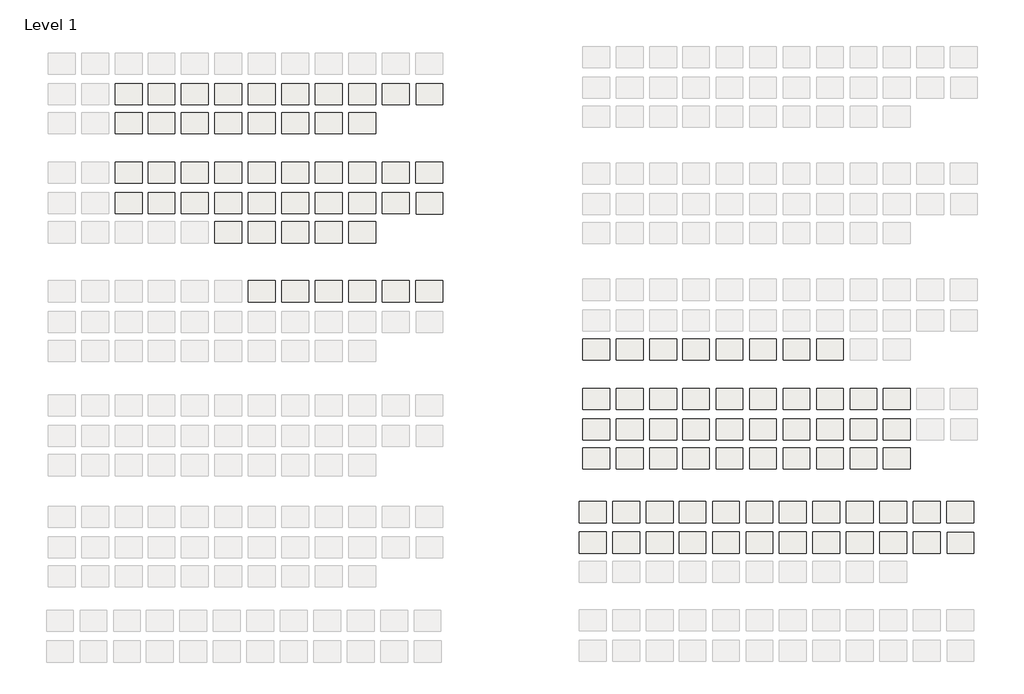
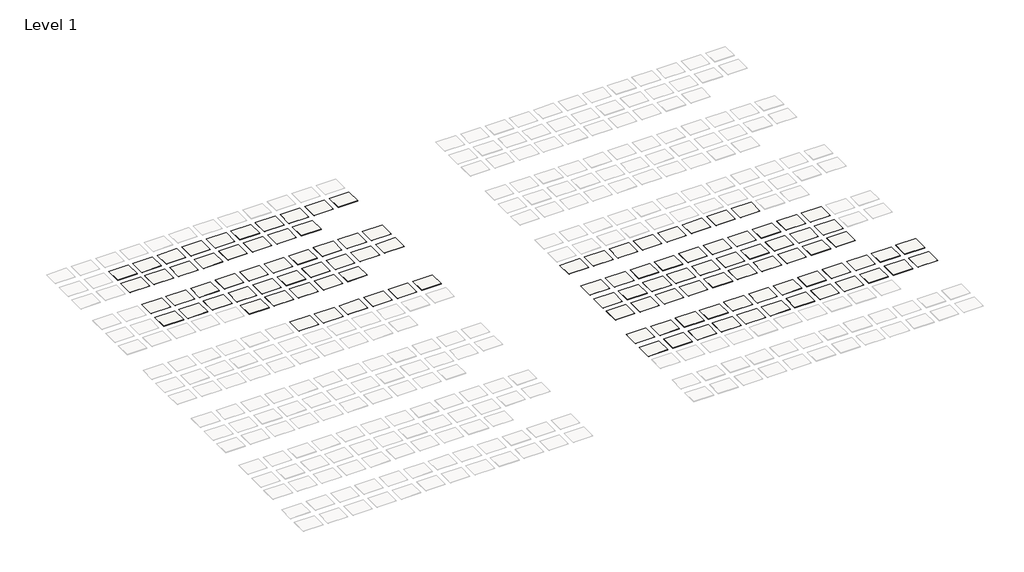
# One storey, part 3 of 4: 111 coverings.
"""IFC4 building model written with IfcOpenShell, lengths in millimetres."""

from ifc_helpers import new_model, si_unit, frame, origin, place, context, project, spatial, polyline, outline, extrude, element, save

model = new_model("IFC4")

# Units and contexts
model_context = context("Model", 3, world=origin())
ifc_project = project(units=[si_unit("LENGTHUNIT", "METRE", prefix="MILLI")], contexts=[model_context])

# Site, building, storey
site = spatial("IfcSite", under=ifc_project)
building = spatial("IfcBuilding", under=site)
storey = spatial("IfcBuildingStorey", under=building, Name="Level 1", Elevation=0.0)

# Coverings
placement = place(None, origin())
element("IfcCovering", 1, ObjectType="Rockfon Color-all E24 600 x 600 mm Anthracite", at=placement, inside=storey, context=model_context, shape_type="SweptSolid", body=[
    extrude(outline(polyline([(68419.6096566, -41151.2630286), (68419.6096566, -44051.2630286), (64729.6096566, -44051.2630286), (64729.6096566, -41151.2630286), (68419.6096566, -41151.2630286)])), frame((0.0, 0.0, 1.0), z_axis=(0.0, 0.0, 1.0), x_axis=(1.0, 0.0, 0.0)), (0.0, 0.0, 1.0), 20.0),
])
element("IfcCovering", 2, ObjectType="Rockfon Color-all E24 600 x 600 mm Seaweed", at=placement, inside=storey, context=model_context, shape_type="SweptSolid", body=[
    extrude(outline(polyline([(68419.6096566, -45351.2630286), (68419.6096566, -48251.2630286), (64729.6096566, -48251.2630286), (64729.6096566, -45351.2630286), (68419.6096566, -45351.2630286)])), frame((0.0, 0.0, 1.0), z_axis=(0.0, 0.0, 1.0), x_axis=(1.0, 0.0, 0.0)), (0.0, 0.0, 1.0), 20.0),
])
element("IfcCovering", 3, ObjectType="Rockfon Color-all E24 600 x 600 mm Azure", at=placement, inside=storey, context=model_context, shape_type="SweptSolid", body=[
    extrude(outline(polyline([(68419.6096566, -49351.2630286), (68419.6096566, -52251.2630286), (64729.6096566, -52251.2630286), (64729.6096566, -49351.2630286), (68419.6096566, -49351.2630286)])), frame((0.0, 0.0, 1.0), z_axis=(0.0, 0.0, 1.0), x_axis=(1.0, 0.0, 0.0)), (0.0, 0.0, 1.0), 20.0),
])
element("IfcCovering", 4, ObjectType="Rockfon Color-all E24 600 x 600 mm Mustard", at=placement, inside=storey, context=model_context, shape_type="SweptSolid", body=[
    extrude(outline(polyline([(73019.6096566, -41151.2630286), (73019.6096566, -44051.2630286), (69329.6096566, -44051.2630286), (69329.6096566, -41151.2630286), (73019.6096566, -41151.2630286)])), frame((0.0, 0.0, 1.0), z_axis=(0.0, 0.0, 1.0), x_axis=(1.0, 0.0, 0.0)), (0.0, 0.0, 1.0), 20.0),
])
element("IfcCovering", 5, ObjectType="Rockfon Color-all E24 600 x 600 mm Eucalyptus", at=placement, inside=storey, context=model_context, shape_type="SweptSolid", body=[
    extrude(outline(polyline([(73019.6096566, -45351.2630286), (73019.6096566, -48251.2630286), (69329.6096566, -48251.2630286), (69329.6096566, -45351.2630286), (73019.6096566, -45351.2630286)])), frame((0.0, 0.0, 1.0), z_axis=(0.0, 0.0, 1.0), x_axis=(1.0, 0.0, 0.0)), (0.0, 0.0, 1.0), 20.0),
])
element("IfcCovering", 6, ObjectType="Rockfon Color-all E24 600 x 600 mm Plaster", at=placement, inside=storey, context=model_context, shape_type="SweptSolid", body=[
    extrude(outline(polyline([(73019.6096566, -49351.2630286), (73019.6096566, -52251.2630286), (69329.6096566, -52251.2630286), (69329.6096566, -49351.2630286), (73019.6096566, -49351.2630286)])), frame((0.0, 0.0, 1.0), z_axis=(0.0, 0.0, 1.0), x_axis=(1.0, 0.0, 0.0)), (0.0, 0.0, 1.0), 20.0),
])
element("IfcCovering", 7, ObjectType="Rockfon Color-all E24 600 x 600 mm Sand", at=placement, inside=storey, context=model_context, shape_type="SweptSolid", body=[
    extrude(outline(polyline([(77619.6096566, -41151.2630286), (77619.6096566, -44051.2630286), (73929.6096566, -44051.2630286), (73929.6096566, -41151.2630286), (77619.6096566, -41151.2630286)])), frame((0.0, 0.0, 1.0), z_axis=(0.0, 0.0, 1.0), x_axis=(1.0, 0.0, 0.0)), (0.0, 0.0, 1.0), 20.0),
])
element("IfcCovering", 8, ObjectType="Rockfon Color-all E24 600 x 600 mm Fresh", at=placement, inside=storey, context=model_context, shape_type="SweptSolid", body=[
    extrude(outline(polyline([(77619.6096566, -45351.2630286), (77619.6096566, -48251.2630286), (73929.6096566, -48251.2630286), (73929.6096566, -45351.2630286), (77619.6096566, -45351.2630286)])), frame((0.0, 0.0, 1.0), z_axis=(0.0, 0.0, 1.0), x_axis=(1.0, 0.0, 0.0)), (0.0, 0.0, 1.0), 20.0),
])
element("IfcCovering", 9, ObjectType="Rockfon Color-all E24 600 x 600 mm Scarlet", at=placement, inside=storey, context=model_context, shape_type="SweptSolid", body=[
    extrude(outline(polyline([(77619.6096566, -49351.2630286), (77619.6096566, -52251.2630286), (73929.6096566, -52251.2630286), (73929.6096566, -49351.2630286), (77619.6096566, -49351.2630286)])), frame((0.0, 0.0, 1.0), z_axis=(0.0, 0.0, 1.0), x_axis=(1.0, 0.0, 0.0)), (0.0, 0.0, 1.0), 20.0),
])
element("IfcCovering", 10, ObjectType="Rockfon Color-all E24 600 x 600 mm Chalk", at=placement, inside=storey, context=model_context, shape_type="SweptSolid", body=[
    extrude(outline(polyline([(82119.6096566, -41151.2630286), (82119.6096566, -44051.2630286), (78429.6096566, -44051.2630286), (78429.6096566, -41151.2630286), (82119.6096566, -41151.2630286)])), frame((0.0, 0.0, 1.0), z_axis=(0.0, 0.0, 1.0), x_axis=(1.0, 0.0, 0.0)), (0.0, 0.0, 1.0), 20.0),
])
element("IfcCovering", 11, ObjectType="Rockfon Color-all E24 600 x 600 mm Sage", at=placement, inside=storey, context=model_context, shape_type="SweptSolid", body=[
    extrude(outline(polyline([(82119.6096566, -45351.2630286), (82119.6096566, -48251.2630286), (78429.6096566, -48251.2630286), (78429.6096566, -45351.2630286), (82119.6096566, -45351.2630286)])), frame((0.0, 0.0, 1.0), z_axis=(0.0, 0.0, 1.0), x_axis=(1.0, 0.0, 0.0)), (0.0, 0.0, 1.0), 20.0),
])
element("IfcCovering", 12, ObjectType="Rockfon Color-all E24 600 x 600 mm Stone", at=placement, inside=storey, context=model_context, shape_type="SweptSolid", body=[
    extrude(outline(polyline([(82119.6096566, -49351.2630286), (82119.6096566, -52251.2630286), (78429.6096566, -52251.2630286), (78429.6096566, -49351.2630286), (82119.6096566, -49351.2630286)])), frame((0.0, 0.0, 1.0), z_axis=(0.0, 0.0, 1.0), x_axis=(1.0, 0.0, 0.0)), (0.0, 0.0, 1.0), 20.0),
])
element("IfcCovering", 13, ObjectType="Rockfon Color-all E24 600 x 600 mm Charcoal", at=placement, inside=storey, context=model_context, shape_type="SweptSolid", body=[
    extrude(outline(polyline([(86719.6096566, -41151.2630286), (86719.6096566, -44051.2630286), (83029.6096566, -44051.2630286), (83029.6096566, -41151.2630286), (86719.6096566, -41151.2630286)])), frame((0.0, 0.0, 1.0), z_axis=(0.0, 0.0, 1.0), x_axis=(1.0, 0.0, 0.0)), (0.0, 0.0, 1.0), 20.0),
])
element("IfcCovering", 14, ObjectType="Rockfon Color-all E24 600 x 600 mm Mint", at=placement, inside=storey, context=model_context, shape_type="SweptSolid", body=[
    extrude(outline(polyline([(86719.6096566, -45351.2630286), (86719.6096566, -48251.2630286), (83029.6096566, -48251.2630286), (83029.6096566, -45351.2630286), (86719.6096566, -45351.2630286)])), frame((0.0, 0.0, 1.0), z_axis=(0.0, 0.0, 1.0), x_axis=(1.0, 0.0, 0.0)), (0.0, 0.0, 1.0), 20.0),
])
element("IfcCovering", 15, ObjectType="Rockfon Color-all E24 600 x 600 mm Stucco", at=placement, inside=storey, context=model_context, shape_type="SweptSolid", body=[
    extrude(outline(polyline([(86719.6096566, -49351.2630286), (86719.6096566, -52251.2630286), (83029.6096566, -52251.2630286), (83029.6096566, -49351.2630286), (86719.6096566, -49351.2630286)])), frame((0.0, 0.0, 1.0), z_axis=(0.0, 0.0, 1.0), x_axis=(1.0, 0.0, 0.0)), (0.0, 0.0, 1.0), 20.0),
])
element("IfcCovering", 16, ObjectType="Rockfon Color-all E24 600 x 600 mm Coral", at=placement, inside=storey, context=model_context, shape_type="SweptSolid", body=[
    extrude(outline(polyline([(91319.6096566, -41151.2630286), (91319.6096566, -44051.2630286), (87629.6096566, -44051.2630286), (87629.6096566, -41151.2630286), (91319.6096566, -41151.2630286)])), frame((0.0, 0.0, 1.0), z_axis=(0.0, 0.0, 1.0), x_axis=(1.0, 0.0, 0.0)), (0.0, 0.0, 1.0), 20.0),
])
element("IfcCovering", 17, ObjectType="Rockfon Color-all E24 600 x 600 mm Gravel", at=placement, inside=storey, context=model_context, shape_type="SweptSolid", body=[
    extrude(outline(polyline([(91319.6096566, -45351.2630286), (91319.6096566, -48251.2630286), (87629.6096566, -48251.2630286), (87629.6096566, -45351.2630286), (91319.6096566, -45351.2630286)])), frame((0.0, 0.0, 1.0), z_axis=(0.0, 0.0, 1.0), x_axis=(1.0, 0.0, 0.0)), (0.0, 0.0, 1.0), 20.0),
])
element("IfcCovering", 18, ObjectType="Rockfon Color-all E24 600 x 600 mm Sandalwood", at=placement, inside=storey, context=model_context, shape_type="SweptSolid", body=[
    extrude(outline(polyline([(91319.6096566, -49351.2630286), (91319.6096566, -52251.2630286), (87629.6096566, -52251.2630286), (87629.6096566, -49351.2630286), (91319.6096566, -49351.2630286)])), frame((0.0, 0.0, 1.0), z_axis=(0.0, 0.0, 1.0), x_axis=(1.0, 0.0, 0.0)), (0.0, 0.0, 1.0), 20.0),
])
element("IfcCovering", 19, ObjectType="Rockfon Color-all E24 600 x 600 mm Clay", at=placement, inside=storey, context=model_context, shape_type="SweptSolid", body=[
    extrude(outline(polyline([(95919.6096566, -41151.2630286), (95919.6096566, -44051.2630286), (92229.6096566, -44051.2630286), (92229.6096566, -41151.2630286), (95919.6096566, -41151.2630286)])), frame((0.0, 0.0, 1.0), z_axis=(0.0, 0.0, 1.0), x_axis=(1.0, 0.0, 0.0)), (0.0, 0.0, 1.0), 20.0),
])
element("IfcCovering", 20, ObjectType="Rockfon Color-all E24 600 x 600 mm Hemp", at=placement, inside=storey, context=model_context, shape_type="SweptSolid", body=[
    extrude(outline(polyline([(95919.6096566, -45351.2630286), (95919.6096566, -48251.2630286), (92229.6096566, -48251.2630286), (92229.6096566, -45351.2630286), (95919.6096566, -45351.2630286)])), frame((0.0, 0.0, 1.0), z_axis=(0.0, 0.0, 1.0), x_axis=(1.0, 0.0, 0.0)), (0.0, 0.0, 1.0), 20.0),
])
element("IfcCovering", 21, ObjectType="Rockfon Color-all E24 600 x 600 mm Ebony", at=placement, inside=storey, context=model_context, shape_type="SweptSolid", body=[
    extrude(outline(polyline([(95919.6096566, -49351.2630286), (95919.6096566, -52251.2630286), (92229.6096566, -52251.2630286), (92229.6096566, -49351.2630286), (95919.6096566, -49351.2630286)])), frame((0.0, 0.0, 1.0), z_axis=(0.0, 0.0, 1.0), x_axis=(1.0, 0.0, 0.0)), (0.0, 0.0, 1.0), 20.0),
])
element("IfcCovering", 22, ObjectType="Rockfon Color-all E24 600 x 600 mm Concrete", at=placement, inside=storey, context=model_context, shape_type="SweptSolid", body=[
    extrude(outline(polyline([(100519.6096566, -41151.2630286), (100519.6096566, -44051.2630286), (96829.6096566, -44051.2630286), (96829.6096566, -41151.2630286), (100519.6096566, -41151.2630286)])), frame((0.0, 0.0, 1.0), z_axis=(0.0, 0.0, 1.0), x_axis=(1.0, 0.0, 0.0)), (0.0, 0.0, 1.0), 20.0),
])
element("IfcCovering", 23, ObjectType="Rockfon Color-all E24 600 x 600 mm Space", at=placement, inside=storey, context=model_context, shape_type="SweptSolid", body=[
    extrude(outline(polyline([(100519.6096566, -45351.2630286), (100519.6096566, -48251.2630286), (96829.6096566, -48251.2630286), (96829.6096566, -45351.2630286), (100519.6096566, -45351.2630286)])), frame((0.0, 0.0, 1.0), z_axis=(0.0, 0.0, 1.0), x_axis=(1.0, 0.0, 0.0)), (0.0, 0.0, 1.0), 20.0),
])
element("IfcCovering", 24, ObjectType="Rockfon Color-all E24 600 x 600 mm Iron", at=placement, inside=storey, context=model_context, shape_type="SweptSolid", body=[
    extrude(outline(polyline([(100519.6096566, -49351.2630286), (100519.6096566, -52251.2630286), (96829.6096566, -52251.2630286), (96829.6096566, -49351.2630286), (100519.6096566, -49351.2630286)])), frame((0.0, 0.0, 1.0), z_axis=(0.0, 0.0, 1.0), x_axis=(1.0, 0.0, 0.0)), (0.0, 0.0, 1.0), 20.0),
])
element("IfcCovering", 25, ObjectType="Rockfon Color-all E24 600 x 600 mm Seashell", at=placement, inside=storey, context=model_context, shape_type="SweptSolid", body=[
    extrude(outline(polyline([(105119.6096566, -41151.2630286), (105119.6096566, -44051.2630286), (101429.6096566, -44051.2630286), (101429.6096566, -41151.2630286), (105119.6096566, -41151.2630286)])), frame((0.0, 0.0, 1.0), z_axis=(0.0, 0.0, 1.0), x_axis=(1.0, 0.0, 0.0)), (0.0, 0.0, 1.0), 20.0),
])
element("IfcCovering", 26, ObjectType="Rockfon Color-all E24 600 x 600 mm Storm", at=placement, inside=storey, context=model_context, shape_type="SweptSolid", body=[
    extrude(outline(polyline([(105119.6096566, -45351.2630286), (105119.6096566, -48251.2630286), (101429.6096566, -48251.2630286), (101429.6096566, -45351.2630286), (105119.6096566, -45351.2630286)])), frame((0.0, 0.0, 1.0), z_axis=(0.0, 0.0, 1.0), x_axis=(1.0, 0.0, 0.0)), (0.0, 0.0, 1.0), 20.0),
])
element("IfcCovering", 27, ObjectType="Rockfon Color-all E24 600 x 600 mm Moon", at=placement, inside=storey, context=model_context, shape_type="SweptSolid", body=[
    extrude(outline(polyline([(105119.6096566, -49351.2630286), (105119.6096566, -52251.2630286), (101429.6096566, -52251.2630286), (101429.6096566, -49351.2630286), (105119.6096566, -49351.2630286)])), frame((0.0, 0.0, 1.0), z_axis=(0.0, 0.0, 1.0), x_axis=(1.0, 0.0, 0.0)), (0.0, 0.0, 1.0), 20.0),
])
element("IfcCovering", 28, ObjectType="Rockfon Color-all E24 600 x 600 mm Cork", at=placement, inside=storey, context=model_context, shape_type="SweptSolid", body=[
    extrude(outline(polyline([(109719.6096566, -41151.2630286), (109719.6096566, -44051.2630286), (106029.6096566, -44051.2630286), (106029.6096566, -41151.2630286), (109719.6096566, -41151.2630286)])), frame((0.0, 0.0, 1.0), z_axis=(0.0, 0.0, 1.0), x_axis=(1.0, 0.0, 0.0)), (0.0, 0.0, 1.0), 20.0),
])
element("IfcCovering", 29, ObjectType="Rockfon Color-all E24 600 x 600 mm Linen", at=placement, inside=storey, context=model_context, shape_type="SweptSolid", body=[
    extrude(outline(polyline([(109719.6096566, -45351.2630286), (109719.6096566, -48251.2630286), (106029.6096566, -48251.2630286), (106029.6096566, -45351.2630286), (109719.6096566, -45351.2630286)])), frame((0.0, 0.0, 1.0), z_axis=(0.0, 0.0, 1.0), x_axis=(1.0, 0.0, 0.0)), (0.0, 0.0, 1.0), 20.0),
])
element("IfcCovering", 30, ObjectType="Rockfon Color-all E24 600 x 600 mm Zinc", at=placement, inside=storey, context=model_context, shape_type="SweptSolid", body=[
    extrude(outline(polyline([(109719.6096566, -49351.2630286), (109719.6096566, -52251.2630286), (106029.6096566, -52251.2630286), (106029.6096566, -49351.2630286), (109719.6096566, -49351.2630286)])), frame((0.0, 0.0, 1.0), z_axis=(0.0, 0.0, 1.0), x_axis=(1.0, 0.0, 0.0)), (0.0, 0.0, 1.0), 20.0),
])
element("IfcCovering", 31, ObjectType="Rockfon Color-all E15 600 x 600 mm Azure", at=placement, inside=storey, context=model_context, shape_type="SweptSolid", body=[
    extrude(outline(polyline([(68419.6096566, -34351.2630286), (68419.6096566, -37251.2630286), (64729.6096566, -37251.2630286), (64729.6096566, -34351.2630286), (68419.6096566, -34351.2630286)])), frame((0.0, 0.0, 1.0), z_axis=(0.0, 0.0, 1.0), x_axis=(1.0, 0.0, 0.0)), (0.0, 0.0, 1.0), 20.0),
])
element("IfcCovering", 32, ObjectType="Rockfon Color-all E15 600 x 600 mm Plaster", at=placement, inside=storey, context=model_context, shape_type="SweptSolid", body=[
    extrude(outline(polyline([(73019.6096566, -34351.2630286), (73019.6096566, -37251.2630286), (69329.6096566, -37251.2630286), (69329.6096566, -34351.2630286), (73019.6096566, -34351.2630286)])), frame((0.0, 0.0, 1.0), z_axis=(0.0, 0.0, 1.0), x_axis=(1.0, 0.0, 0.0)), (0.0, 0.0, 1.0), 20.0),
])
element("IfcCovering", 33, ObjectType="Rockfon Color-all E15 600 x 600 mm Scarlet", at=placement, inside=storey, context=model_context, shape_type="SweptSolid", body=[
    extrude(outline(polyline([(77619.6096566, -34351.2630286), (77619.6096566, -37251.2630286), (73929.6096566, -37251.2630286), (73929.6096566, -34351.2630286), (77619.6096566, -34351.2630286)])), frame((0.0, 0.0, 1.0), z_axis=(0.0, 0.0, 1.0), x_axis=(1.0, 0.0, 0.0)), (0.0, 0.0, 1.0), 20.0),
])
element("IfcCovering", 34, ObjectType="Rockfon Color-all E15 600 x 600 mm Stone", at=placement, inside=storey, context=model_context, shape_type="SweptSolid", body=[
    extrude(outline(polyline([(82119.6096566, -34351.2630286), (82119.6096566, -37251.2630286), (78429.6096566, -37251.2630286), (78429.6096566, -34351.2630286), (82119.6096566, -34351.2630286)])), frame((0.0, 0.0, 1.0), z_axis=(0.0, 0.0, 1.0), x_axis=(1.0, 0.0, 0.0)), (0.0, 0.0, 1.0), 20.0),
])
element("IfcCovering", 35, ObjectType="Rockfon Color-all E15 600 x 600 mm Stucco", at=placement, inside=storey, context=model_context, shape_type="SweptSolid", body=[
    extrude(outline(polyline([(86719.6096566, -34351.2630286), (86719.6096566, -37251.2630286), (83029.6096566, -37251.2630286), (83029.6096566, -34351.2630286), (86719.6096566, -34351.2630286)])), frame((0.0, 0.0, 1.0), z_axis=(0.0, 0.0, 1.0), x_axis=(1.0, 0.0, 0.0)), (0.0, 0.0, 1.0), 20.0),
])
element("IfcCovering", 36, ObjectType="Rockfon Color-all E15 600 x 600 mm Sandalwood", at=placement, inside=storey, context=model_context, shape_type="SweptSolid", body=[
    extrude(outline(polyline([(91319.6096566, -34351.2630286), (91319.6096566, -37251.2630286), (87629.6096566, -37251.2630286), (87629.6096566, -34351.2630286), (91319.6096566, -34351.2630286)])), frame((0.0, 0.0, 1.0), z_axis=(0.0, 0.0, 1.0), x_axis=(1.0, 0.0, 0.0)), (0.0, 0.0, 1.0), 20.0),
])
element("IfcCovering", 37, ObjectType="Rockfon Color-all E15 600 x 600 mm Ebony", at=placement, inside=storey, context=model_context, shape_type="SweptSolid", body=[
    extrude(outline(polyline([(95919.6096566, -34351.2630286), (95919.6096566, -37251.2630286), (92229.6096566, -37251.2630286), (92229.6096566, -34351.2630286), (95919.6096566, -34351.2630286)])), frame((0.0, 0.0, 1.0), z_axis=(0.0, 0.0, 1.0), x_axis=(1.0, 0.0, 0.0)), (0.0, 0.0, 1.0), 20.0),
])
element("IfcCovering", 38, ObjectType="Rockfon Color-all E15 600 x 600 mm Iron", at=placement, inside=storey, context=model_context, shape_type="SweptSolid", body=[
    extrude(outline(polyline([(100519.6096566, -34351.2630286), (100519.6096566, -37251.2630286), (96829.6096566, -37251.2630286), (96829.6096566, -34351.2630286), (100519.6096566, -34351.2630286)])), frame((0.0, 0.0, 1.0), z_axis=(0.0, 0.0, 1.0), x_axis=(1.0, 0.0, 0.0)), (0.0, 0.0, 1.0), 20.0),
])
element("IfcCovering", 39, ObjectType="Rockfon Color-all X 600 x 600 mm Fresh", at=placement, inside=storey, context=model_context, shape_type="SweptSolid", body=[
    extrude(outline(polyline([(4177.7144566, 748.2467138), (4177.7144566, -2151.7532862), (487.7144566, -2151.7532862), (487.7144566, 748.2467138), (4177.7144566, 748.2467138)])), frame((0.0, 0.0, 1.0), z_axis=(0.0, 0.0, 1.0), x_axis=(1.0, 0.0, 0.0)), (0.0, 0.0, 1.0), 22.0),
])
element("IfcCovering", 40, ObjectType="Rockfon Color-all X 600 x 600 mm Scarlet", at=placement, inside=storey, context=model_context, shape_type="SweptSolid", body=[
    extrude(outline(polyline([(4177.7144566, -3251.7532862), (4177.7144566, -6151.7532862), (487.7144566, -6151.7532862), (487.7144566, -3251.7532862), (4177.7144566, -3251.7532862)])), frame((0.0, 0.0, 1.0), z_axis=(0.0, 0.0, 1.0), x_axis=(1.0, 0.0, 0.0)), (0.0, 0.0, 1.0), 22.0),
])
element("IfcCovering", 41, ObjectType="Rockfon Color-all X 600 x 600 mm Sage", at=placement, inside=storey, context=model_context, shape_type="SweptSolid", body=[
    extrude(outline(polyline([(8677.7144566, 748.2467138), (8677.7144566, -2151.7532862), (4987.7144566, -2151.7532862), (4987.7144566, 748.2467138), (8677.7144566, 748.2467138)])), frame((0.0, 0.0, 1.0), z_axis=(0.0, 0.0, 1.0), x_axis=(1.0, 0.0, 0.0)), (0.0, 0.0, 1.0), 22.0),
])
element("IfcCovering", 42, ObjectType="Rockfon Color-all X 600 x 600 mm Stone", at=placement, inside=storey, context=model_context, shape_type="SweptSolid", body=[
    extrude(outline(polyline([(8677.7144566, -3251.7532862), (8677.7144566, -6151.7532862), (4987.7144566, -6151.7532862), (4987.7144566, -3251.7532862), (8677.7144566, -3251.7532862)])), frame((0.0, 0.0, 1.0), z_axis=(0.0, 0.0, 1.0), x_axis=(1.0, 0.0, 0.0)), (0.0, 0.0, 1.0), 22.0),
])
element("IfcCovering", 43, ObjectType="Rockfon Color-all X 600 x 600 mm Mint", at=placement, inside=storey, context=model_context, shape_type="SweptSolid", body=[
    extrude(outline(polyline([(13277.7144566, 748.2467138), (13277.7144566, -2151.7532862), (9587.7144566, -2151.7532862), (9587.7144566, 748.2467138), (13277.7144566, 748.2467138)])), frame((0.0, 0.0, 1.0), z_axis=(0.0, 0.0, 1.0), x_axis=(1.0, 0.0, 0.0)), (0.0, 0.0, 1.0), 22.0),
])
element("IfcCovering", 44, ObjectType="Rockfon Color-all X 600 x 600 mm Stucco", at=placement, inside=storey, context=model_context, shape_type="SweptSolid", body=[
    extrude(outline(polyline([(13277.7144566, -3251.7532862), (13277.7144566, -6151.7532862), (9587.7144566, -6151.7532862), (9587.7144566, -3251.7532862), (13277.7144566, -3251.7532862)])), frame((0.0, 0.0, 1.0), z_axis=(0.0, 0.0, 1.0), x_axis=(1.0, 0.0, 0.0)), (0.0, 0.0, 1.0), 22.0),
])
element("IfcCovering", 45, ObjectType="Rockfon Color-all X 600 x 600 mm Gravel", at=placement, inside=storey, context=model_context, shape_type="SweptSolid", body=[
    extrude(outline(polyline([(17877.7144566, 748.2467138), (17877.7144566, -2151.7532862), (14187.7144566, -2151.7532862), (14187.7144566, 748.2467138), (17877.7144566, 748.2467138)])), frame((0.0, 0.0, 1.0), z_axis=(0.0, 0.0, 1.0), x_axis=(1.0, 0.0, 0.0)), (0.0, 0.0, 1.0), 22.0),
])
element("IfcCovering", 46, ObjectType="Rockfon Color-all X 600 x 600 mm Sandalwood", at=placement, inside=storey, context=model_context, shape_type="SweptSolid", body=[
    extrude(outline(polyline([(17877.7144566, -3251.7532862), (17877.7144566, -6151.7532862), (14187.7144566, -6151.7532862), (14187.7144566, -3251.7532862), (17877.7144566, -3251.7532862)])), frame((0.0, 0.0, 1.0), z_axis=(0.0, 0.0, 1.0), x_axis=(1.0, 0.0, 0.0)), (0.0, 0.0, 1.0), 22.0),
])
element("IfcCovering", 47, ObjectType="Rockfon Color-all X 600 x 600 mm Hemp", at=placement, inside=storey, context=model_context, shape_type="SweptSolid", body=[
    extrude(outline(polyline([(22477.7144566, 748.2467138), (22477.7144566, -2151.7532862), (18787.7144566, -2151.7532862), (18787.7144566, 748.2467138), (22477.7144566, 748.2467138)])), frame((0.0, 0.0, 1.0), z_axis=(0.0, 0.0, 1.0), x_axis=(1.0, 0.0, 0.0)), (0.0, 0.0, 1.0), 22.0),
])
element("IfcCovering", 48, ObjectType="Rockfon Color-all X 600 x 600 mm Ebony", at=placement, inside=storey, context=model_context, shape_type="SweptSolid", body=[
    extrude(outline(polyline([(22477.7144566, -3251.7532862), (22477.7144566, -6151.7532862), (18787.7144566, -6151.7532862), (18787.7144566, -3251.7532862), (22477.7144566, -3251.7532862)])), frame((0.0, 0.0, 1.0), z_axis=(0.0, 0.0, 1.0), x_axis=(1.0, 0.0, 0.0)), (0.0, 0.0, 1.0), 22.0),
])
element("IfcCovering", 49, ObjectType="Rockfon Color-all X 600 x 600 mm Space", at=placement, inside=storey, context=model_context, shape_type="SweptSolid", body=[
    extrude(outline(polyline([(27077.7144566, 748.2467138), (27077.7144566, -2151.7532862), (23387.7144566, -2151.7532862), (23387.7144566, 748.2467138), (27077.7144566, 748.2467138)])), frame((0.0, 0.0, 1.0), z_axis=(0.0, 0.0, 1.0), x_axis=(1.0, 0.0, 0.0)), (0.0, 0.0, 1.0), 22.0),
])
element("IfcCovering", 50, ObjectType="Rockfon Color-all X 600 x 600 mm Iron", at=placement, inside=storey, context=model_context, shape_type="SweptSolid", body=[
    extrude(outline(polyline([(27077.7144566, -3251.7532862), (27077.7144566, -6151.7532862), (23387.7144566, -6151.7532862), (23387.7144566, -3251.7532862), (27077.7144566, -3251.7532862)])), frame((0.0, 0.0, 1.0), z_axis=(0.0, 0.0, 1.0), x_axis=(1.0, 0.0, 0.0)), (0.0, 0.0, 1.0), 22.0),
])
element("IfcCovering", 51, ObjectType="Rockfon Color-all X 600 x 600 mm Storm", at=placement, inside=storey, context=model_context, shape_type="SweptSolid", body=[
    extrude(outline(polyline([(31677.7144566, 748.2467138), (31677.7144566, -2151.7532862), (27987.7144566, -2151.7532862), (27987.7144566, 748.2467138), (31677.7144566, 748.2467138)])), frame((0.0, 0.0, 1.0), z_axis=(0.0, 0.0, 1.0), x_axis=(1.0, 0.0, 0.0)), (0.0, 0.0, 1.0), 22.0),
])
element("IfcCovering", 52, ObjectType="Rockfon Color-all X 600 x 600 mm Moon", at=placement, inside=storey, context=model_context, shape_type="SweptSolid", body=[
    extrude(outline(polyline([(31677.7144566, -3251.7532862), (31677.7144566, -6151.7532862), (27987.7144566, -6151.7532862), (27987.7144566, -3251.7532862), (31677.7144566, -3251.7532862)])), frame((0.0, 0.0, 1.0), z_axis=(0.0, 0.0, 1.0), x_axis=(1.0, 0.0, 0.0)), (0.0, 0.0, 1.0), 22.0),
])
element("IfcCovering", 53, ObjectType="Rockfon Color-all X 600 x 600 mm Linen", at=placement, inside=storey, context=model_context, shape_type="SweptSolid", body=[
    extrude(outline(polyline([(36277.7144566, 748.2467138), (36277.7144566, -2151.7532862), (32587.7144566, -2151.7532862), (32587.7144566, 748.2467138), (36277.7144566, 748.2467138)])), frame((0.0, 0.0, 1.0), z_axis=(0.0, 0.0, 1.0), x_axis=(1.0, 0.0, 0.0)), (0.0, 0.0, 1.0), 22.0),
])
element("IfcCovering", 54, ObjectType="Rockfon Color-all X 600 x 600 mm Zinc", at=placement, inside=storey, context=model_context, shape_type="SweptSolid", body=[
    extrude(outline(polyline([(36277.7144566, -3251.7532862), (36277.7144566, -6151.7532862), (32587.7144566, -6151.7532862), (32587.7144566, -3251.7532862), (36277.7144566, -3251.7532862)])), frame((0.0, 0.0, 1.0), z_axis=(0.0, 0.0, 1.0), x_axis=(1.0, 0.0, 0.0)), (0.0, 0.0, 1.0), 22.0),
])
element("IfcCovering", 55, ObjectType="Rockfon Color-all X 600 x 600 mm Mastic", at=placement, inside=storey, context=model_context, shape_type="SweptSolid", body=[
    extrude(outline(polyline([(40877.7144566, 748.2467138), (40877.7144566, -2151.7532862), (37187.7144566, -2151.7532862), (37187.7144566, 748.2467138), (40877.7144566, 748.2467138)])), frame((0.0, 0.0, 1.0), z_axis=(0.0, 0.0, 1.0), x_axis=(1.0, 0.0, 0.0)), (0.0, 0.0, 1.0), 22.0),
])
element("IfcCovering", 56, ObjectType="Rockfon Color-all X 600 x 600 mm Mercury", at=placement, inside=storey, context=model_context, shape_type="SweptSolid", body=[
    extrude(outline(polyline([(45496.7857141, 743.1191528), (45496.7857141, -2156.8808472), (41806.7857141, -2156.8808472), (41806.7857141, 743.1191528), (45496.7857141, 743.1191528)])), frame((0.0, 0.0, 1.0), z_axis=(0.0, 0.0, 1.0), x_axis=(1.0, 0.0, 0.0)), (0.0, 0.0, 1.0), 22.0),
])
element("IfcCovering", 57, ObjectType="Rockfon Color-all A15 600 x 600 mm Sand", at=placement, inside=storey, context=model_context, shape_type="SweptSolid", body=[
    extrude(outline(polyline([(4177.7144566, -10051.7532862), (4177.7144566, -12951.7532862), (487.7144566, -12951.7532862), (487.7144566, -10051.7532862), (4177.7144566, -10051.7532862)])), frame((0.0, 0.0, 1.0), z_axis=(0.0, 0.0, 1.0), x_axis=(1.0, 0.0, 0.0)), (0.0, 0.0, 1.0), 15.0),
])
element("IfcCovering", 58, ObjectType="Rockfon Color-all A15 600 x 600 mm Fresh", at=placement, inside=storey, context=model_context, shape_type="SweptSolid", body=[
    extrude(outline(polyline([(4177.7144566, -14251.7532862), (4177.7144566, -17151.7532862), (487.7144566, -17151.7532862), (487.7144566, -14251.7532862), (4177.7144566, -14251.7532862)])), frame((0.0, 0.0, 1.0), z_axis=(0.0, 0.0, 1.0), x_axis=(1.0, 0.0, 0.0)), (0.0, 0.0, 1.0), 15.0),
])
element("IfcCovering", 59, ObjectType="Rockfon Color-all A15 600 x 600 mm Chalk", at=placement, inside=storey, context=model_context, shape_type="SweptSolid", body=[
    extrude(outline(polyline([(8677.7144566, -10051.7532862), (8677.7144566, -12951.7532862), (4987.7144566, -12951.7532862), (4987.7144566, -10051.7532862), (8677.7144566, -10051.7532862)])), frame((0.0, 0.0, 1.0), z_axis=(0.0, 0.0, 1.0), x_axis=(1.0, 0.0, 0.0)), (0.0, 0.0, 1.0), 15.0),
])
element("IfcCovering", 60, ObjectType="Rockfon Color-all A15 600 x 600 mm Sage", at=placement, inside=storey, context=model_context, shape_type="SweptSolid", body=[
    extrude(outline(polyline([(8677.7144566, -14251.7532862), (8677.7144566, -17151.7532862), (4987.7144566, -17151.7532862), (4987.7144566, -14251.7532862), (8677.7144566, -14251.7532862)])), frame((0.0, 0.0, 1.0), z_axis=(0.0, 0.0, 1.0), x_axis=(1.0, 0.0, 0.0)), (0.0, 0.0, 1.0), 15.0),
])
element("IfcCovering", 61, ObjectType="Rockfon Color-all A15 600 x 600 mm Charcoal", at=placement, inside=storey, context=model_context, shape_type="SweptSolid", body=[
    extrude(outline(polyline([(13277.7144566, -10051.7532862), (13277.7144566, -12951.7532862), (9587.7144566, -12951.7532862), (9587.7144566, -10051.7532862), (13277.7144566, -10051.7532862)])), frame((0.0, 0.0, 1.0), z_axis=(0.0, 0.0, 1.0), x_axis=(1.0, 0.0, 0.0)), (0.0, 0.0, 1.0), 15.0),
])
element("IfcCovering", 62, ObjectType="Rockfon Color-all A15 600 x 600 mm Mint", at=placement, inside=storey, context=model_context, shape_type="SweptSolid", body=[
    extrude(outline(polyline([(13277.7144566, -14251.7532862), (13277.7144566, -17151.7532862), (9587.7144566, -17151.7532862), (9587.7144566, -14251.7532862), (13277.7144566, -14251.7532862)])), frame((0.0, 0.0, 1.0), z_axis=(0.0, 0.0, 1.0), x_axis=(1.0, 0.0, 0.0)), (0.0, 0.0, 1.0), 15.0),
])
element("IfcCovering", 63, ObjectType="Rockfon Color-all A15 600 x 600 mm Coral", at=placement, inside=storey, context=model_context, shape_type="SweptSolid", body=[
    extrude(outline(polyline([(17877.7144566, -10051.7532862), (17877.7144566, -12951.7532862), (14187.7144566, -12951.7532862), (14187.7144566, -10051.7532862), (17877.7144566, -10051.7532862)])), frame((0.0, 0.0, 1.0), z_axis=(0.0, 0.0, 1.0), x_axis=(1.0, 0.0, 0.0)), (0.0, 0.0, 1.0), 15.0),
])
element("IfcCovering", 64, ObjectType="Rockfon Color-all A15 600 x 600 mm Gravel", at=placement, inside=storey, context=model_context, shape_type="SweptSolid", body=[
    extrude(outline(polyline([(17877.7144566, -14251.7532862), (17877.7144566, -17151.7532862), (14187.7144566, -17151.7532862), (14187.7144566, -14251.7532862), (17877.7144566, -14251.7532862)])), frame((0.0, 0.0, 1.0), z_axis=(0.0, 0.0, 1.0), x_axis=(1.0, 0.0, 0.0)), (0.0, 0.0, 1.0), 15.0),
])
element("IfcCovering", 65, ObjectType="Rockfon Color-all A15 600 x 600 mm Sandalwood", at=placement, inside=storey, context=model_context, shape_type="SweptSolid", body=[
    extrude(outline(polyline([(17877.7144566, -18251.7532862), (17877.7144566, -21151.7532862), (14187.7144566, -21151.7532862), (14187.7144566, -18251.7532862), (17877.7144566, -18251.7532862)])), frame((0.0, 0.0, 1.0), z_axis=(0.0, 0.0, 1.0), x_axis=(1.0, 0.0, 0.0)), (0.0, 0.0, 1.0), 15.0),
])
element("IfcCovering", 66, ObjectType="Rockfon Color-all A15 600 x 600 mm Clay", at=placement, inside=storey, context=model_context, shape_type="SweptSolid", body=[
    extrude(outline(polyline([(22477.7144566, -10051.7532862), (22477.7144566, -12951.7532862), (18787.7144566, -12951.7532862), (18787.7144566, -10051.7532862), (22477.7144566, -10051.7532862)])), frame((0.0, 0.0, 1.0), z_axis=(0.0, 0.0, 1.0), x_axis=(1.0, 0.0, 0.0)), (0.0, 0.0, 1.0), 15.0),
])
element("IfcCovering", 67, ObjectType="Rockfon Color-all A15 600 x 600 mm Hemp", at=placement, inside=storey, context=model_context, shape_type="SweptSolid", body=[
    extrude(outline(polyline([(22477.7144566, -14251.7532862), (22477.7144566, -17151.7532862), (18787.7144566, -17151.7532862), (18787.7144566, -14251.7532862), (22477.7144566, -14251.7532862)])), frame((0.0, 0.0, 1.0), z_axis=(0.0, 0.0, 1.0), x_axis=(1.0, 0.0, 0.0)), (0.0, 0.0, 1.0), 15.0),
])
element("IfcCovering", 68, ObjectType="Rockfon Color-all A15 600 x 600 mm Ebony", at=placement, inside=storey, context=model_context, shape_type="SweptSolid", body=[
    extrude(outline(polyline([(22477.7144566, -18251.7532862), (22477.7144566, -21151.7532862), (18787.7144566, -21151.7532862), (18787.7144566, -18251.7532862), (22477.7144566, -18251.7532862)])), frame((0.0, 0.0, 1.0), z_axis=(0.0, 0.0, 1.0), x_axis=(1.0, 0.0, 0.0)), (0.0, 0.0, 1.0), 15.0),
])
element("IfcCovering", 69, ObjectType="Rockfon Color-all A15 600 x 600 mm Concrete", at=placement, inside=storey, context=model_context, shape_type="SweptSolid", body=[
    extrude(outline(polyline([(27077.7144566, -10051.7532862), (27077.7144566, -12951.7532862), (23387.7144566, -12951.7532862), (23387.7144566, -10051.7532862), (27077.7144566, -10051.7532862)])), frame((0.0, 0.0, 1.0), z_axis=(0.0, 0.0, 1.0), x_axis=(1.0, 0.0, 0.0)), (0.0, 0.0, 1.0), 15.0),
])
element("IfcCovering", 70, ObjectType="Rockfon Color-all A15 600 x 600 mm Space", at=placement, inside=storey, context=model_context, shape_type="SweptSolid", body=[
    extrude(outline(polyline([(27077.7144566, -14251.7532862), (27077.7144566, -17151.7532862), (23387.7144566, -17151.7532862), (23387.7144566, -14251.7532862), (27077.7144566, -14251.7532862)])), frame((0.0, 0.0, 1.0), z_axis=(0.0, 0.0, 1.0), x_axis=(1.0, 0.0, 0.0)), (0.0, 0.0, 1.0), 15.0),
])
element("IfcCovering", 71, ObjectType="Rockfon Color-all A15 600 x 600 mm Iron", at=placement, inside=storey, context=model_context, shape_type="SweptSolid", body=[
    extrude(outline(polyline([(27077.7144566, -18251.7532862), (27077.7144566, -21151.7532862), (23387.7144566, -21151.7532862), (23387.7144566, -18251.7532862), (27077.7144566, -18251.7532862)])), frame((0.0, 0.0, 1.0), z_axis=(0.0, 0.0, 1.0), x_axis=(1.0, 0.0, 0.0)), (0.0, 0.0, 1.0), 15.0),
])
element("IfcCovering", 72, ObjectType="Rockfon Color-all A15 600 x 600 mm Seashell", at=placement, inside=storey, context=model_context, shape_type="SweptSolid", body=[
    extrude(outline(polyline([(31677.7144566, -10051.7532862), (31677.7144566, -12951.7532862), (27987.7144566, -12951.7532862), (27987.7144566, -10051.7532862), (31677.7144566, -10051.7532862)])), frame((0.0, 0.0, 1.0), z_axis=(0.0, 0.0, 1.0), x_axis=(1.0, 0.0, 0.0)), (0.0, 0.0, 1.0), 15.0),
])
element("IfcCovering", 73, ObjectType="Rockfon Color-all A15 600 x 600 mm Storm", at=placement, inside=storey, context=model_context, shape_type="SweptSolid", body=[
    extrude(outline(polyline([(31677.7144566, -14251.7532862), (31677.7144566, -17151.7532862), (27987.7144566, -17151.7532862), (27987.7144566, -14251.7532862), (31677.7144566, -14251.7532862)])), frame((0.0, 0.0, 1.0), z_axis=(0.0, 0.0, 1.0), x_axis=(1.0, 0.0, 0.0)), (0.0, 0.0, 1.0), 15.0),
])
element("IfcCovering", 74, ObjectType="Rockfon Color-all A15 600 x 600 mm Moon", at=placement, inside=storey, context=model_context, shape_type="SweptSolid", body=[
    extrude(outline(polyline([(31677.7144566, -18251.7532862), (31677.7144566, -21151.7532862), (27987.7144566, -21151.7532862), (27987.7144566, -18251.7532862), (31677.7144566, -18251.7532862)])), frame((0.0, 0.0, 1.0), z_axis=(0.0, 0.0, 1.0), x_axis=(1.0, 0.0, 0.0)), (0.0, 0.0, 1.0), 15.0),
])
element("IfcCovering", 75, ObjectType="Rockfon Color-all A15 600 x 600 mm Cork", at=placement, inside=storey, context=model_context, shape_type="SweptSolid", body=[
    extrude(outline(polyline([(36277.7144566, -10051.7532862), (36277.7144566, -12951.7532862), (32587.7144566, -12951.7532862), (32587.7144566, -10051.7532862), (36277.7144566, -10051.7532862)])), frame((0.0, 0.0, 1.0), z_axis=(0.0, 0.0, 1.0), x_axis=(1.0, 0.0, 0.0)), (0.0, 0.0, 1.0), 15.0),
])
element("IfcCovering", 76, ObjectType="Rockfon Color-all A15 600 x 600 mm Linen", at=placement, inside=storey, context=model_context, shape_type="SweptSolid", body=[
    extrude(outline(polyline([(36277.7144566, -14251.7532862), (36277.7144566, -17151.7532862), (32587.7144566, -17151.7532862), (32587.7144566, -14251.7532862), (36277.7144566, -14251.7532862)])), frame((0.0, 0.0, 1.0), z_axis=(0.0, 0.0, 1.0), x_axis=(1.0, 0.0, 0.0)), (0.0, 0.0, 1.0), 15.0),
])
element("IfcCovering", 77, ObjectType="Rockfon Color-all A15 600 x 600 mm Zinc", at=placement, inside=storey, context=model_context, shape_type="SweptSolid", body=[
    extrude(outline(polyline([(36277.7144566, -18251.7532862), (36277.7144566, -21151.7532862), (32587.7144566, -21151.7532862), (32587.7144566, -18251.7532862), (36277.7144566, -18251.7532862)])), frame((0.0, 0.0, 1.0), z_axis=(0.0, 0.0, 1.0), x_axis=(1.0, 0.0, 0.0)), (0.0, 0.0, 1.0), 15.0),
])
element("IfcCovering", 78, ObjectType="Rockfon Color-all A15 600 x 600 mm Petal", at=placement, inside=storey, context=model_context, shape_type="SweptSolid", body=[
    extrude(outline(polyline([(40877.7144566, -10051.7532862), (40877.7144566, -12951.7532862), (37187.7144566, -12951.7532862), (37187.7144566, -10051.7532862), (40877.7144566, -10051.7532862)])), frame((0.0, 0.0, 1.0), z_axis=(0.0, 0.0, 1.0), x_axis=(1.0, 0.0, 0.0)), (0.0, 0.0, 1.0), 15.0),
])
element("IfcCovering", 79, ObjectType="Rockfon Color-all A15 600 x 600 mm Mastic", at=placement, inside=storey, context=model_context, shape_type="SweptSolid", body=[
    extrude(outline(polyline([(40877.7144566, -14251.7532862), (40877.7144566, -17151.7532862), (37187.7144566, -17151.7532862), (37187.7144566, -14251.7532862), (40877.7144566, -14251.7532862)])), frame((0.0, 0.0, 1.0), z_axis=(0.0, 0.0, 1.0), x_axis=(1.0, 0.0, 0.0)), (0.0, 0.0, 1.0), 15.0),
])
element("IfcCovering", 80, ObjectType="Rockfon Color-all A15 600 x 600 mm Mercury", at=placement, inside=storey, context=model_context, shape_type="SweptSolid", body=[
    extrude(outline(polyline([(45496.7857141, -14256.8808472), (45496.7857141, -17156.8808472), (41806.7857141, -17156.8808472), (41806.7857141, -14256.8808472), (45496.7857141, -14256.8808472)])), frame((0.0, 0.0, 1.0), z_axis=(0.0, 0.0, 1.0), x_axis=(1.0, 0.0, 0.0)), (0.0, 0.0, 1.0), 15.0),
])
element("IfcCovering", 81, ObjectType="Rockfon Color-all A15 600 x 600 mm Earth", at=placement, inside=storey, context=model_context, shape_type="SweptSolid", body=[
    extrude(outline(polyline([(45477.7144566, -10051.7532862), (45477.7144566, -12951.7532862), (41787.7144566, -12951.7532862), (41787.7144566, -10051.7532862), (45477.7144566, -10051.7532862)])), frame((0.0, 0.0, 1.0), z_axis=(0.0, 0.0, 1.0), x_axis=(1.0, 0.0, 0.0)), (0.0, 0.0, 1.0), 15.0),
])
element("IfcCovering", 82, ObjectType="Rockfon Color-all A15 1200 x 600 mm Clay", at=placement, inside=storey, context=model_context, shape_type="SweptSolid", body=[
    extrude(outline(polyline([(22477.7144566, -26351.7532862), (22477.7144566, -29251.7532862), (18787.7144566, -29251.7532862), (18787.7144566, -26351.7532862), (22477.7144566, -26351.7532862)])), frame((0.0, 0.0, 1.0), z_axis=(0.0, 0.0, 1.0), x_axis=(1.0, 0.0, 0.0)), (0.0, 0.0, 1.0), 15.0),
])
element("IfcCovering", 83, ObjectType="Rockfon Color-all A15 1200 x 600 mm Concrete", at=placement, inside=storey, context=model_context, shape_type="SweptSolid", body=[
    extrude(outline(polyline([(27077.7144566, -26351.7532862), (27077.7144566, -29251.7532862), (23387.7144566, -29251.7532862), (23387.7144566, -26351.7532862), (27077.7144566, -26351.7532862)])), frame((0.0, 0.0, 1.0), z_axis=(0.0, 0.0, 1.0), x_axis=(1.0, 0.0, 0.0)), (0.0, 0.0, 1.0), 15.0),
])
element("IfcCovering", 84, ObjectType="Rockfon Color-all A15 1200 x 600 mm Seashell", at=placement, inside=storey, context=model_context, shape_type="SweptSolid", body=[
    extrude(outline(polyline([(31677.7144566, -26351.7532862), (31677.7144566, -29251.7532862), (27987.7144566, -29251.7532862), (27987.7144566, -26351.7532862), (31677.7144566, -26351.7532862)])), frame((0.0, 0.0, 1.0), z_axis=(0.0, 0.0, 1.0), x_axis=(1.0, 0.0, 0.0)), (0.0, 0.0, 1.0), 15.0),
])
element("IfcCovering", 85, ObjectType="Rockfon Color-all A15 1200 x 600 mm Cork", at=placement, inside=storey, context=model_context, shape_type="SweptSolid", body=[
    extrude(outline(polyline([(36277.7144566, -26351.7532862), (36277.7144566, -29251.7532862), (32587.7144566, -29251.7532862), (32587.7144566, -26351.7532862), (36277.7144566, -26351.7532862)])), frame((0.0, 0.0, 1.0), z_axis=(0.0, 0.0, 1.0), x_axis=(1.0, 0.0, 0.0)), (0.0, 0.0, 1.0), 15.0),
])
element("IfcCovering", 86, ObjectType="Rockfon Color-all A15 1200 x 600 mm Petal", at=placement, inside=storey, context=model_context, shape_type="SweptSolid", body=[
    extrude(outline(polyline([(40877.7144566, -26351.7532862), (40877.7144566, -29251.7532862), (37187.7144566, -29251.7532862), (37187.7144566, -26351.7532862), (40877.7144566, -26351.7532862)])), frame((0.0, 0.0, 1.0), z_axis=(0.0, 0.0, 1.0), x_axis=(1.0, 0.0, 0.0)), (0.0, 0.0, 1.0), 15.0),
])
element("IfcCovering", 87, ObjectType="Rockfon Color-all A15 1200 x 600 mm Earth", at=placement, inside=storey, context=model_context, shape_type="SweptSolid", body=[
    extrude(outline(polyline([(45477.7144566, -26351.7532862), (45477.7144566, -29251.7532862), (41787.7144566, -29251.7532862), (41787.7144566, -26351.7532862), (45477.7144566, -26351.7532862)])), frame((0.0, 0.0, 1.0), z_axis=(0.0, 0.0, 1.0), x_axis=(1.0, 0.0, 0.0)), (0.0, 0.0, 1.0), 15.0),
])
element("IfcCovering", 88, ObjectType="Rockfon Color-all B 600 x 600 mm Anthracite", at=placement, inside=storey, context=model_context, shape_type="SweptSolid", body=[
    extrude(outline(polyline([(67933.0208414, -56710.7287916), (67933.0208414, -59610.7287916), (64243.0208414, -59610.7287916), (64243.0208414, -56710.7287916), (67933.0208414, -56710.7287916)])), frame((0.0, 0.0, 1.0), z_axis=(0.0, 0.0, 1.0), x_axis=(1.0, 0.0, 0.0)), (0.0, 0.0, 1.0), 40.0),
])
element("IfcCovering", 89, ObjectType="Rockfon Color-all B 600 x 600 mm Seaweed", at=placement, inside=storey, context=model_context, shape_type="SweptSolid", body=[
    extrude(outline(polyline([(67933.0208414, -60910.7287916), (67933.0208414, -63810.7287916), (64243.0208414, -63810.7287916), (64243.0208414, -60910.7287916), (67933.0208414, -60910.7287916)])), frame((0.0, 0.0, 1.0), z_axis=(0.0, 0.0, 1.0), x_axis=(1.0, 0.0, 0.0)), (0.0, 0.0, 1.0), 40.0),
])
element("IfcCovering", 90, ObjectType="Rockfon Color-all B 600 x 600 mm Mustard", at=placement, inside=storey, context=model_context, shape_type="SweptSolid", body=[
    extrude(outline(polyline([(72533.0208414, -56710.7287916), (72533.0208414, -59610.7287916), (68843.0208414, -59610.7287916), (68843.0208414, -56710.7287916), (72533.0208414, -56710.7287916)])), frame((0.0, 0.0, 1.0), z_axis=(0.0, 0.0, 1.0), x_axis=(1.0, 0.0, 0.0)), (0.0, 0.0, 1.0), 40.0),
])
element("IfcCovering", 91, ObjectType="Rockfon Color-all B 600 x 600 mm Eucalyptus", at=placement, inside=storey, context=model_context, shape_type="SweptSolid", body=[
    extrude(outline(polyline([(72533.0208414, -60910.7287916), (72533.0208414, -63810.7287916), (68843.0208414, -63810.7287916), (68843.0208414, -60910.7287916), (72533.0208414, -60910.7287916)])), frame((0.0, 0.0, 1.0), z_axis=(0.0, 0.0, 1.0), x_axis=(1.0, 0.0, 0.0)), (0.0, 0.0, 1.0), 40.0),
])
element("IfcCovering", 92, ObjectType="Rockfon Color-all B 600 x 600 mm Sand", at=placement, inside=storey, context=model_context, shape_type="SweptSolid", body=[
    extrude(outline(polyline([(77133.0208414, -56710.7287916), (77133.0208414, -59610.7287916), (73443.0208414, -59610.7287916), (73443.0208414, -56710.7287916), (77133.0208414, -56710.7287916)])), frame((0.0, 0.0, 1.0), z_axis=(0.0, 0.0, 1.0), x_axis=(1.0, 0.0, 0.0)), (0.0, 0.0, 1.0), 40.0),
])
element("IfcCovering", 93, ObjectType="Rockfon Color-all B 600 x 600 mm Fresh", at=placement, inside=storey, context=model_context, shape_type="SweptSolid", body=[
    extrude(outline(polyline([(77133.0208414, -60910.7287916), (77133.0208414, -63810.7287916), (73443.0208414, -63810.7287916), (73443.0208414, -60910.7287916), (77133.0208414, -60910.7287916)])), frame((0.0, 0.0, 1.0), z_axis=(0.0, 0.0, 1.0), x_axis=(1.0, 0.0, 0.0)), (0.0, 0.0, 1.0), 40.0),
])
element("IfcCovering", 94, ObjectType="Rockfon Color-all B 600 x 600 mm Chalk", at=placement, inside=storey, context=model_context, shape_type="SweptSolid", body=[
    extrude(outline(polyline([(81633.0208414, -56710.7287916), (81633.0208414, -59610.7287916), (77943.0208414, -59610.7287916), (77943.0208414, -56710.7287916), (81633.0208414, -56710.7287916)])), frame((0.0, 0.0, 1.0), z_axis=(0.0, 0.0, 1.0), x_axis=(1.0, 0.0, 0.0)), (0.0, 0.0, 1.0), 40.0),
])
element("IfcCovering", 95, ObjectType="Rockfon Color-all B 600 x 600 mm Sage", at=placement, inside=storey, context=model_context, shape_type="SweptSolid", body=[
    extrude(outline(polyline([(81633.0208414, -60910.7287916), (81633.0208414, -63810.7287916), (77943.0208414, -63810.7287916), (77943.0208414, -60910.7287916), (81633.0208414, -60910.7287916)])), frame((0.0, 0.0, 1.0), z_axis=(0.0, 0.0, 1.0), x_axis=(1.0, 0.0, 0.0)), (0.0, 0.0, 1.0), 40.0),
])
element("IfcCovering", 96, ObjectType="Rockfon Color-all B 600 x 600 mm Charcoal", at=placement, inside=storey, context=model_context, shape_type="SweptSolid", body=[
    extrude(outline(polyline([(86233.0208414, -56710.7287916), (86233.0208414, -59610.7287916), (82543.0208414, -59610.7287916), (82543.0208414, -56710.7287916), (86233.0208414, -56710.7287916)])), frame((0.0, 0.0, 1.0), z_axis=(0.0, 0.0, 1.0), x_axis=(1.0, 0.0, 0.0)), (0.0, 0.0, 1.0), 40.0),
])
element("IfcCovering", 97, ObjectType="Rockfon Color-all B 600 x 600 mm Mint", at=placement, inside=storey, context=model_context, shape_type="SweptSolid", body=[
    extrude(outline(polyline([(86233.0208414, -60910.7287916), (86233.0208414, -63810.7287916), (82543.0208414, -63810.7287916), (82543.0208414, -60910.7287916), (86233.0208414, -60910.7287916)])), frame((0.0, 0.0, 1.0), z_axis=(0.0, 0.0, 1.0), x_axis=(1.0, 0.0, 0.0)), (0.0, 0.0, 1.0), 40.0),
])
element("IfcCovering", 98, ObjectType="Rockfon Color-all B 600 x 600 mm Coral", at=placement, inside=storey, context=model_context, shape_type="SweptSolid", body=[
    extrude(outline(polyline([(90833.0208414, -56710.7287916), (90833.0208414, -59610.7287916), (87143.0208414, -59610.7287916), (87143.0208414, -56710.7287916), (90833.0208414, -56710.7287916)])), frame((0.0, 0.0, 1.0), z_axis=(0.0, 0.0, 1.0), x_axis=(1.0, 0.0, 0.0)), (0.0, 0.0, 1.0), 40.0),
])
element("IfcCovering", 99, ObjectType="Rockfon Color-all B 600 x 600 mm Gravel", at=placement, inside=storey, context=model_context, shape_type="SweptSolid", body=[
    extrude(outline(polyline([(90833.0208414, -60910.7287916), (90833.0208414, -63810.7287916), (87143.0208414, -63810.7287916), (87143.0208414, -60910.7287916), (90833.0208414, -60910.7287916)])), frame((0.0, 0.0, 1.0), z_axis=(0.0, 0.0, 1.0), x_axis=(1.0, 0.0, 0.0)), (0.0, 0.0, 1.0), 40.0),
])
element("IfcCovering", 100, ObjectType="Rockfon Color-all B 600 x 600 mm Clay", at=placement, inside=storey, context=model_context, shape_type="SweptSolid", body=[
    extrude(outline(polyline([(95433.0208414, -56710.7287916), (95433.0208414, -59610.7287916), (91743.0208414, -59610.7287916), (91743.0208414, -56710.7287916), (95433.0208414, -56710.7287916)])), frame((0.0, 0.0, 1.0), z_axis=(0.0, 0.0, 1.0), x_axis=(1.0, 0.0, 0.0)), (0.0, 0.0, 1.0), 40.0),
])
element("IfcCovering", 101, ObjectType="Rockfon Color-all B 600 x 600 mm Hemp", at=placement, inside=storey, context=model_context, shape_type="SweptSolid", body=[
    extrude(outline(polyline([(95433.0208414, -60910.7287916), (95433.0208414, -63810.7287916), (91743.0208414, -63810.7287916), (91743.0208414, -60910.7287916), (95433.0208414, -60910.7287916)])), frame((0.0, 0.0, 1.0), z_axis=(0.0, 0.0, 1.0), x_axis=(1.0, 0.0, 0.0)), (0.0, 0.0, 1.0), 40.0),
])
element("IfcCovering", 102, ObjectType="Rockfon Color-all B 600 x 600 mm Concrete", at=placement, inside=storey, context=model_context, shape_type="SweptSolid", body=[
    extrude(outline(polyline([(100033.0208414, -56710.7287916), (100033.0208414, -59610.7287916), (96343.0208414, -59610.7287916), (96343.0208414, -56710.7287916), (100033.0208414, -56710.7287916)])), frame((0.0, 0.0, 1.0), z_axis=(0.0, 0.0, 1.0), x_axis=(1.0, 0.0, 0.0)), (0.0, 0.0, 1.0), 40.0),
])
element("IfcCovering", 103, ObjectType="Rockfon Color-all B 600 x 600 mm Space", at=placement, inside=storey, context=model_context, shape_type="SweptSolid", body=[
    extrude(outline(polyline([(100033.0208414, -60910.7287916), (100033.0208414, -63810.7287916), (96343.0208414, -63810.7287916), (96343.0208414, -60910.7287916), (100033.0208414, -60910.7287916)])), frame((0.0, 0.0, 1.0), z_axis=(0.0, 0.0, 1.0), x_axis=(1.0, 0.0, 0.0)), (0.0, 0.0, 1.0), 40.0),
])
element("IfcCovering", 104, ObjectType="Rockfon Color-all B 600 x 600 mm Seashell", at=placement, inside=storey, context=model_context, shape_type="SweptSolid", body=[
    extrude(outline(polyline([(104633.0208414, -56710.7287916), (104633.0208414, -59610.7287916), (100943.0208414, -59610.7287916), (100943.0208414, -56710.7287916), (104633.0208414, -56710.7287916)])), frame((0.0, 0.0, 1.0), z_axis=(0.0, 0.0, 1.0), x_axis=(1.0, 0.0, 0.0)), (0.0, 0.0, 1.0), 40.0),
])
element("IfcCovering", 105, ObjectType="Rockfon Color-all B 600 x 600 mm Storm", at=placement, inside=storey, context=model_context, shape_type="SweptSolid", body=[
    extrude(outline(polyline([(104633.0208414, -60910.7287916), (104633.0208414, -63810.7287916), (100943.0208414, -63810.7287916), (100943.0208414, -60910.7287916), (104633.0208414, -60910.7287916)])), frame((0.0, 0.0, 1.0), z_axis=(0.0, 0.0, 1.0), x_axis=(1.0, 0.0, 0.0)), (0.0, 0.0, 1.0), 40.0),
])
element("IfcCovering", 106, ObjectType="Rockfon Color-all B 600 x 600 mm Cork", at=placement, inside=storey, context=model_context, shape_type="SweptSolid", body=[
    extrude(outline(polyline([(109233.0208414, -56710.7287916), (109233.0208414, -59610.7287916), (105543.0208414, -59610.7287916), (105543.0208414, -56710.7287916), (109233.0208414, -56710.7287916)])), frame((0.0, 0.0, 1.0), z_axis=(0.0, 0.0, 1.0), x_axis=(1.0, 0.0, 0.0)), (0.0, 0.0, 1.0), 40.0),
])
element("IfcCovering", 107, ObjectType="Rockfon Color-all B 600 x 600 mm Linen", at=placement, inside=storey, context=model_context, shape_type="SweptSolid", body=[
    extrude(outline(polyline([(109233.0208414, -60910.7287916), (109233.0208414, -63810.7287916), (105543.0208414, -63810.7287916), (105543.0208414, -60910.7287916), (109233.0208414, -60910.7287916)])), frame((0.0, 0.0, 1.0), z_axis=(0.0, 0.0, 1.0), x_axis=(1.0, 0.0, 0.0)), (0.0, 0.0, 1.0), 40.0),
])
element("IfcCovering", 108, ObjectType="Rockfon Color-all B 600 x 600 mm Petal", at=placement, inside=storey, context=model_context, shape_type="SweptSolid", body=[
    extrude(outline(polyline([(113833.0208414, -56710.7287916), (113833.0208414, -59610.7287916), (110143.0208414, -59610.7287916), (110143.0208414, -56710.7287916), (113833.0208414, -56710.7287916)])), frame((0.0, 0.0, 1.0), z_axis=(0.0, 0.0, 1.0), x_axis=(1.0, 0.0, 0.0)), (0.0, 0.0, 1.0), 40.0),
])
element("IfcCovering", 109, ObjectType="Rockfon Color-all B 600 x 600 mm Mastic", at=placement, inside=storey, context=model_context, shape_type="SweptSolid", body=[
    extrude(outline(polyline([(113833.0208414, -60910.7287916), (113833.0208414, -63810.7287916), (110143.0208414, -63810.7287916), (110143.0208414, -60910.7287916), (113833.0208414, -60910.7287916)])), frame((0.0, 0.0, 1.0), z_axis=(0.0, 0.0, 1.0), x_axis=(1.0, 0.0, 0.0)), (0.0, 0.0, 1.0), 40.0),
])
element("IfcCovering", 110, ObjectType="Rockfon Color-all B 600 x 600 mm Mercury", at=placement, inside=storey, context=model_context, shape_type="SweptSolid", body=[
    extrude(outline(polyline([(118452.0920989, -60915.8563527), (118452.0920989, -63815.8563527), (114762.0920989, -63815.8563527), (114762.0920989, -60915.8563527), (118452.0920989, -60915.8563527)])), frame((0.0, 0.0, 1.0), z_axis=(0.0, 0.0, 1.0), x_axis=(1.0, 0.0, 0.0)), (0.0, 0.0, 1.0), 40.0),
])
element("IfcCovering", 111, ObjectType="Rockfon Color-all B 600 x 600 mm Earth", at=placement, inside=storey, context=model_context, shape_type="SweptSolid", body=[
    extrude(outline(polyline([(118433.0208414, -56710.7287916), (118433.0208414, -59610.7287916), (114743.0208414, -59610.7287916), (114743.0208414, -56710.7287916), (118433.0208414, -56710.7287916)])), frame((0.0, 0.0, 1.0), z_axis=(0.0, 0.0, 1.0), x_axis=(1.0, 0.0, 0.0)), (0.0, 0.0, 1.0), 40.0),
])

save(model, "model.ifc")
